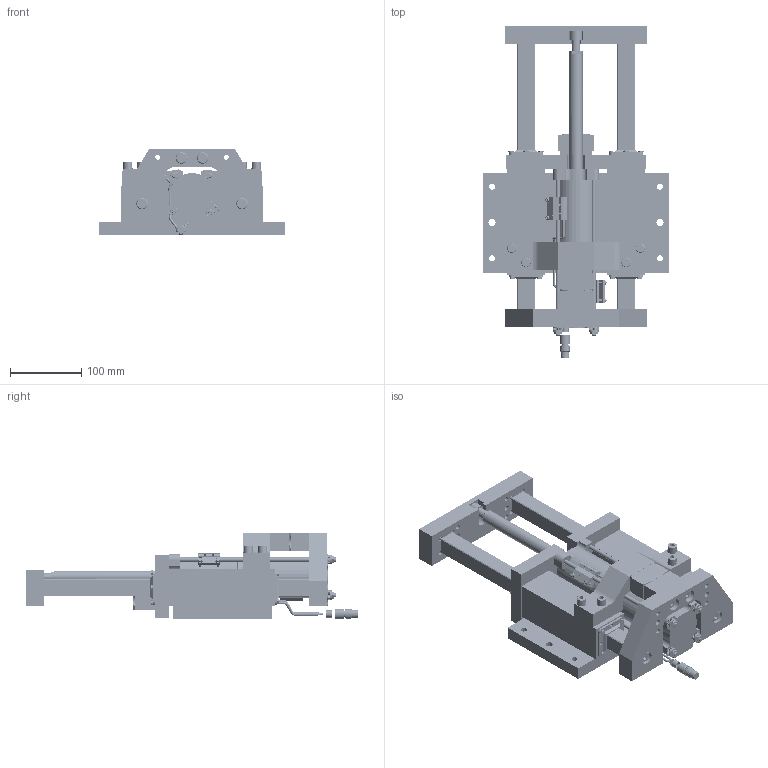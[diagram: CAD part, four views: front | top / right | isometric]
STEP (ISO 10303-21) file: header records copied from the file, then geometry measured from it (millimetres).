
FILE_DESCRIPTION(/* description */ (''),/* implementation_level */ '2;1');
FILE_NAME(/* name */ 'C:\Vault Workspace\CAD\Welker\Shot Pin\DBL24\STANDARD\DB2125B01XL3XXX0000-EXT.stp',/* time_stamp */ '2018-03-26T07:57:22-04:00',/* author */ ('KLabrecque'),/* organization */ (''),/* preprocessor_version */ 'ST-DEVELOPER v17',/* originating_system */ 'Autodesk Inventor 2018',/* authorisation */ '');
FILE_SCHEMA (('AUTOMOTIVE_DESIGN { 1 0 10303 214 3 1 1 }'));
Products named in the file (1): DB2L01_Shrinkwrap_1
Bounding box: 260 x 464.45 x 120.8 mm (x, y, z)
Volume: 3196605.5 mm3; surface area: 772650.7 mm2
Topology: 134 solids, 134 shells, 4556 faces, 11931 edges, 7861 vertices
Faces by surface type: plane 2708, cylinder 1240, cone 530, bspline 56, torus 22
Full cylindrical faces by diameter (mm): 0.5 x1, 1.9 x2, 2.459 x4, 2.5 x1, 2.6 x2, 3 x8, 3.175 x22, 3.2 x6, 3.5 x4, 3.734 x16, 4 x2, 4.166 x16, 4.763 x32, 4.917 x12, 5 x2, 5.359 x8, 5.5 x4, 6 x12, 6.35 x2, 6.5 x28, 6.563 x16, 6.647 x8, 7 x8, 7.95 x4, 8 x32, 8.334 x12, 8.376 x14, 8.5 x16, 8.7 x16, 9.6 x1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
Entity records: 163147 total; most frequent: CARTESIAN_POINT 48064, ORIENTED_EDGE 23740, DIRECTION 22080, EDGE_CURVE 11870, AXIS2_PLACEMENT_3D 8393, VERTEX_POINT 7861, LINE 5294, VECTOR 5294
